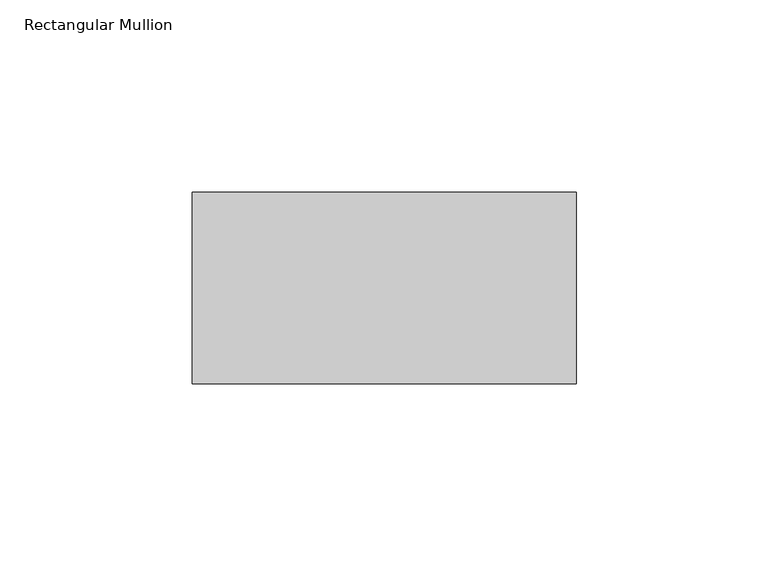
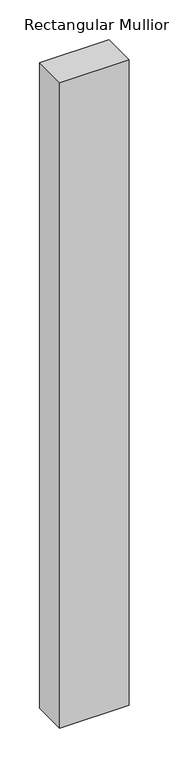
"""IFC4 building model written with IfcOpenShell, lengths in millimetres: member geometry, Rectangular Mullion : Mullion_Curtain Wall_Generic Showcase_50x100mm."""

import ifcopenshell
import ifcopenshell.guid

model = None  # the IFC model being written
_history = None  # IfcOwnerHistory: only IFC2X3 demands one
_inside = {}  # id of a spatial element -> (the spatial element, [elements in it])
_under = {}  # id of a project, library or spatial element -> (it, [spatial elements below it])
_declared = {}  # id of a project -> (the project, [libraries it declares])
_typed = {}  # id of a type object -> (the type object, [elements of that type])
_made_of = {}  # id of a material, layer set ... -> (it, [elements and type objects made of it])


def new_model(schema):
    """Start an empty IFC model of exactly this schema.

    Asked for "IFC4X3", IfcOpenShell would pick the latest addendum, in which some entities
    have other attributes; the version numbers below select the first issue.
    IFC2X3 requires an IfcOwnerHistory on every rooted entity: one is made here for all.
    """
    global model, _history
    if schema == "IFC4X3":
        model = ifcopenshell.file(schema_version=(4, 3, 0, 0))
    else:
        model = ifcopenshell.file(schema=schema)
    _inside.clear()
    _under.clear()
    _declared.clear()
    _typed.clear()
    _made_of.clear()
    _history = None
    if model.schema == "IFC2X3":
        org = make("IfcOrganization", Name="unknown")
        user = make(
            "IfcPersonAndOrganization",
            ThePerson=make("IfcPerson", FamilyName="unknown"),
            TheOrganization=org,
        )
        app = make(
            "IfcApplication",
            ApplicationDeveloper=org,
            Version="unknown",
            ApplicationFullName="unknown",
            ApplicationIdentifier="unknown",
        )
        _history = make(
            "IfcOwnerHistory",
            OwningUser=user,
            OwningApplication=app,
            ChangeAction="ADDED",
            CreationDate=0,
        )
    return model


def make(cls, **values):
    """One entity of the class cls with the attributes given. An attribute that is None is left unset."""
    return model.create_entity(
        cls, **{name: value for name, value in values.items() if value is not None}
    )


def rooted(cls, **values):
    """An entity with a GlobalId (a new one), such as an element, a storey or a relation."""
    return make(cls, GlobalId=ifcopenshell.guid.new(), OwnerHistory=_history, **values)


def si_unit(unit_type, name, prefix=None):
    """IfcSIUnit, for example si_unit("LENGTHUNIT", "METRE", prefix="MILLI")."""
    return make("IfcSIUnit", UnitType=unit_type, Prefix=prefix, Name=name)


def assignment(units):
    """IfcUnitAssignment: the units of a project."""
    return None if units is None else make("IfcUnitAssignment", Units=units)


def point(xyz):
    """IfcCartesianPoint."""
    return None if xyz is None else make("IfcCartesianPoint", Coordinates=xyz)


def direction(xyz):
    """IfcDirection."""
    return None if xyz is None else make("IfcDirection", DirectionRatios=xyz)


def frame(location, z_axis=None, x_axis=None):
    """IfcAxis2Placement3D, a coordinate frame: its origin and axes. An axis left out is left unset."""
    return make(
        "IfcAxis2Placement3D",
        Location=point(location),
        Axis=direction(z_axis),
        RefDirection=direction(x_axis),
    )


def origin():
    """The frame at (0, 0, 0) with its axes left unset."""
    return frame((0.0, 0.0, 0.0))


def place(relative_to, where):
    """IfcLocalPlacement: puts the frame where relative to a parent placement (None: the world)."""
    return make(
        "IfcLocalPlacement", PlacementRelTo=relative_to, RelativePlacement=where
    )


def context(
    kind, dimensions, precision=None, world=None, true_north=None, identifier=None
):
    """IfcGeometricRepresentationContext, for example the 3D "Model" context."""
    return make(
        "IfcGeometricRepresentationContext",
        ContextIdentifier=identifier,
        ContextType=kind,
        CoordinateSpaceDimension=dimensions,
        Precision=precision,
        WorldCoordinateSystem=world,
        TrueNorth=true_north,
    )


def project(units=None, contexts=None):
    """IfcProject with its units and contexts."""
    return rooted(
        "IfcProject",
        Name="project",
        RepresentationContexts=contexts,
        UnitsInContext=assignment(units),
    )


def spatial(cls, under=None, at=None, **own):
    """A site, building, storey or space (cls), placed at a placement, below another one or the project."""
    s = rooted(cls, ObjectPlacement=at, **own)
    if under is not None:
        _under.setdefault(under.id(), (under, []))[1].append(s)
    return s


def polyline(points):
    """IfcPolyline through the points."""
    return make("IfcPolyline", Points=[point(p) for p in points])


def outline(outer, holes=None, kind="AREA"):
    """IfcArbitraryClosedProfileDef: a profile drawn as a closed curve; with holes, ...WithVoids."""
    if holes is None:
        return make("IfcArbitraryClosedProfileDef", ProfileType=kind, OuterCurve=outer)
    return make(
        "IfcArbitraryProfileDefWithVoids",
        ProfileType=kind,
        OuterCurve=outer,
        InnerCurves=holes,
    )


def extrude(swept, where, along, depth):
    """IfcExtrudedAreaSolid: the profile swept, set in the frame where, extruded along a direction by depth."""
    return make(
        "IfcExtrudedAreaSolid",
        SweptArea=swept,
        Position=where,
        ExtrudedDirection=direction(along),
        Depth=depth,
    )


def shape(context_of_items, identifier, shape_type, items):
    """IfcShapeRepresentation: the items that make up one representation, for example the "Body"."""
    return make(
        "IfcShapeRepresentation",
        ContextOfItems=context_of_items,
        RepresentationIdentifier=identifier,
        RepresentationType=shape_type,
        Items=items,
    )


def source(mapping_origin, context_of_items, identifier, shape_type, items):
    """IfcRepresentationMap: a shape defined once, which mapped items show again and again."""
    return make(
        "IfcRepresentationMap",
        MappingOrigin=mapping_origin,
        MappedRepresentation=shape(context_of_items, identifier, shape_type, items),
    )


def transform(
    local_origin,
    x_axis=None,
    y_axis=None,
    z_axis=None,
    scale=None,
    scale2=None,
    scale3=None,
    uniform=True,
):
    """IfcCartesianTransformationOperator3D, or its non-uniform kind. x_axis, y_axis, z_axis: its Axis1, 2, 3."""
    if uniform:
        return make(
            "IfcCartesianTransformationOperator3D",
            Axis1=direction(x_axis),
            Axis2=direction(y_axis),
            LocalOrigin=point(local_origin),
            Scale=scale,
            Axis3=direction(z_axis),
        )
    return make(
        "IfcCartesianTransformationOperator3DnonUniform",
        Axis1=direction(x_axis),
        Axis2=direction(y_axis),
        LocalOrigin=point(local_origin),
        Scale=scale,
        Axis3=direction(z_axis),
        Scale2=scale2,
        Scale3=scale3,
    )


def mapped(mapping_source, mapping_target):
    """IfcMappedItem: shows the shape of a source again, moved by a transform."""
    return make(
        "IfcMappedItem", MappingSource=mapping_source, MappingTarget=mapping_target
    )


def made_of(thing, what):
    """Note that an element or type object is made of a material, layer set ...; save() writes the relation."""
    if what is not None:
        _made_of.setdefault(what.id(), (what, []))[1].append(thing)
    return thing


def element(
    cls,
    number,
    at=None,
    inside=None,
    cuts=None,
    type_object=None,
    material=None,
    context=None,
    identifier="Body",
    shape_type=None,
    held_by="IfcProductDefinitionShape",
    body=None,
    shapes=None,
    **own,
):
    """One element of the class cls, such as IfcWall. Its Tag is "e" and its number.

    at: its placement. inside: the storey or other place that contains it. cuts: it is an
    opening in that element (IfcRelVoidsElement). A single representation is given by context,
    identifier, shape_type and body (its items); several are given by shapes. held_by: the class
    of the entity that holds the representations. save() writes the other relations.
    """
    e = rooted(cls, Tag="e%d" % number, ObjectPlacement=at, **own)
    if body is not None:
        shapes = [shape(context, identifier, shape_type, body)]
    if shapes is not None:
        e.Representation = make(held_by, Representations=shapes)
    if inside is not None:
        _inside.setdefault(inside.id(), (inside, []))[1].append(e)
    if cuts is not None:
        rooted(
            "IfcRelVoidsElement", RelatingBuildingElement=cuts, RelatedOpeningElement=e
        )
    if type_object is not None:
        _typed.setdefault(type_object.id(), (type_object, []))[1].append(e)
    return made_of(e, material)


def aggregate(whole, parts):
    """IfcRelAggregates: a whole, such as a stair, and the parts it consists of."""
    return rooted("IfcRelAggregates", RelatingObject=whole, RelatedObjects=parts)


def save(model, path):
    """Write the relations noted so far, then the file.

    IfcRelAggregates (storeys below a building ...), IfcRelContainedInSpatialStructure (elements
    in a storey), IfcRelDefinesByType, IfcRelAssociatesMaterial and IfcRelDeclares: one each for
    every whole, place, type object, material and project.
    """
    for whole, parts in _under.values():
        aggregate(whole, parts)
    for where, things in _inside.values():
        rooted(
            "IfcRelContainedInSpatialStructure",
            RelatedElements=things,
            RelatingStructure=where,
        )
    for kind, things in _typed.values():
        rooted("IfcRelDefinesByType", RelatedObjects=things, RelatingType=kind)
    for what, things in _made_of.values():
        rooted("IfcRelAssociatesMaterial", RelatedObjects=things, RelatingMaterial=what)
    for by, libraries in _declared.values():
        rooted("IfcRelDeclares", RelatingContext=by, RelatedDefinitions=libraries)
    model.write(path)


def rectangular_mullion_ccc8bb2c(model_context):
    return source(origin(), model_context, "Body", "SweptSolid", [
        extrude(outline(polyline([(0.0, 50.0), (0.0, 0.0), (-100.0, 0.0), (-100.0, 50.0), (0.0, 50.0)])), frame((0.0, 0.0, -985.0), z_axis=(0.0, 0.0, 1.0), x_axis=(1.0, 0.0, 0.0)), (0.0, 0.0, 1.0), 985.0),
    ])


if __name__ == "__main__":
    model = new_model("IFC4")
    model_context = context("Model", 3, world=origin())
    ifc_project = project(units=[si_unit("LENGTHUNIT", "METRE", prefix="MILLI")], contexts=[model_context])
    site = spatial("IfcSite", under=ifc_project)
    building = spatial("IfcBuilding", under=site)
    placement = place(None, origin())
    rectangular_mullion_shape = rectangular_mullion_ccc8bb2c(model_context)
    element("IfcMember", 1, ObjectType="Rectangular Mullion : Mullion_Curtain Wall_Generic Showcase_50x100mm", at=placement, inside=building, context=model_context, shape_type="MappedRepresentation", body=[
        mapped(rectangular_mullion_shape, transform((0.0, 0.0, 0.0), x_axis=(1.0, 0.0, 0.0), y_axis=(0.0, 1.0, 0.0), z_axis=(0.0, 0.0, 1.0))),
    ])
    save(model, "model.ifc")
